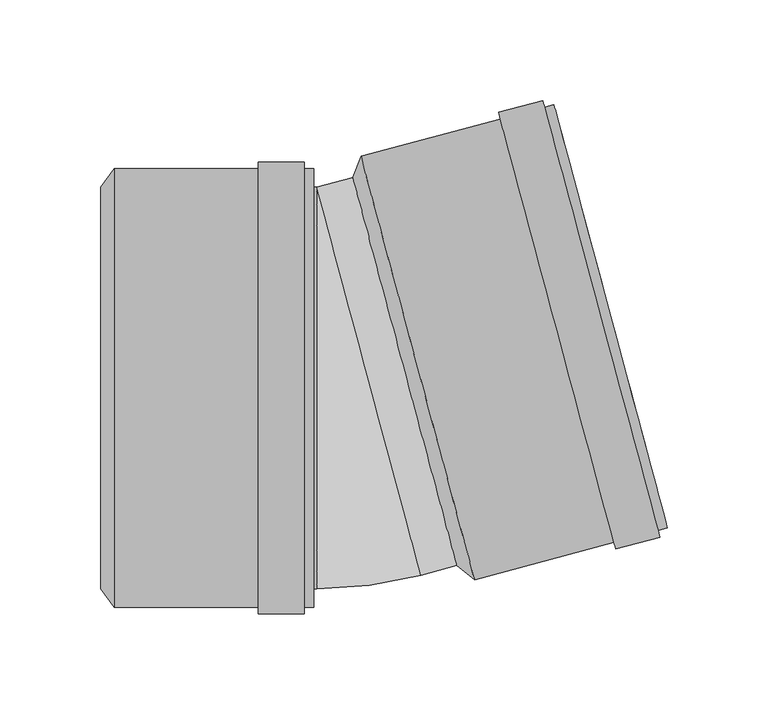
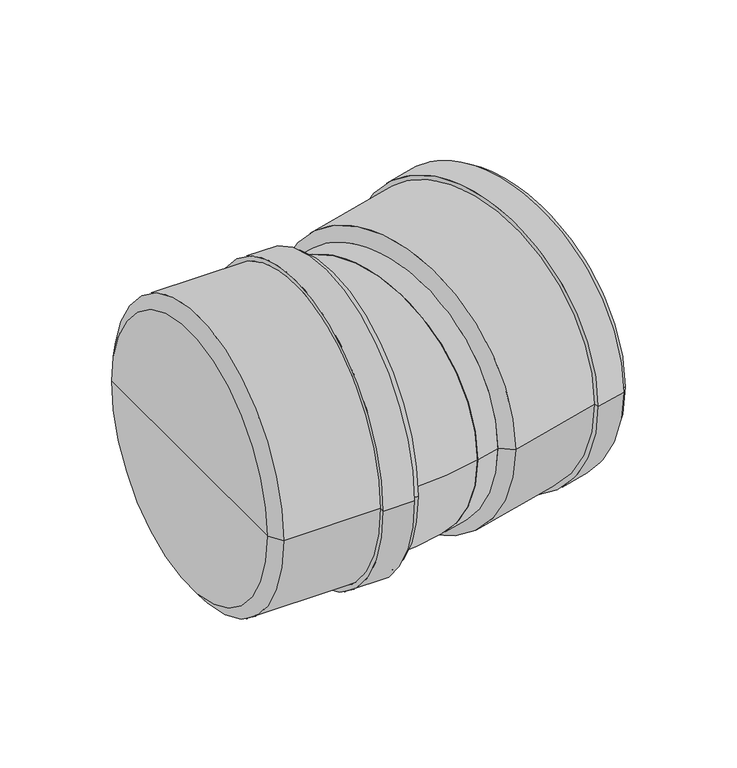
"""IFC4 building model written with IfcOpenShell, lengths in millimetres: pipe fitting geometry, pf_KGB : pf_KGB."""

import ifcopenshell
import ifcopenshell.guid

model = None  # the IFC model being written
_history = None  # IfcOwnerHistory: only IFC2X3 demands one
_inside = {}  # id of a spatial element -> (the spatial element, [elements in it])
_under = {}  # id of a project, library or spatial element -> (it, [spatial elements below it])
_declared = {}  # id of a project -> (the project, [libraries it declares])
_typed = {}  # id of a type object -> (the type object, [elements of that type])
_made_of = {}  # id of a material, layer set ... -> (it, [elements and type objects made of it])


def new_model(schema):
    """Start an empty IFC model of exactly this schema.

    Asked for "IFC4X3", IfcOpenShell would pick the latest addendum, in which some entities
    have other attributes; the version numbers below select the first issue.
    IFC2X3 requires an IfcOwnerHistory on every rooted entity: one is made here for all.
    """
    global model, _history
    if schema == "IFC4X3":
        model = ifcopenshell.file(schema_version=(4, 3, 0, 0))
    else:
        model = ifcopenshell.file(schema=schema)
    _inside.clear()
    _under.clear()
    _declared.clear()
    _typed.clear()
    _made_of.clear()
    _history = None
    if model.schema == "IFC2X3":
        org = make("IfcOrganization", Name="unknown")
        user = make(
            "IfcPersonAndOrganization",
            ThePerson=make("IfcPerson", FamilyName="unknown"),
            TheOrganization=org,
        )
        app = make(
            "IfcApplication",
            ApplicationDeveloper=org,
            Version="unknown",
            ApplicationFullName="unknown",
            ApplicationIdentifier="unknown",
        )
        _history = make(
            "IfcOwnerHistory",
            OwningUser=user,
            OwningApplication=app,
            ChangeAction="ADDED",
            CreationDate=0,
        )
    return model


def make(cls, **values):
    """One entity of the class cls with the attributes given. An attribute that is None is left unset."""
    return model.create_entity(
        cls, **{name: value for name, value in values.items() if value is not None}
    )


def rooted(cls, **values):
    """An entity with a GlobalId (a new one), such as an element, a storey or a relation."""
    return make(cls, GlobalId=ifcopenshell.guid.new(), OwnerHistory=_history, **values)


def si_unit(unit_type, name, prefix=None):
    """IfcSIUnit, for example si_unit("LENGTHUNIT", "METRE", prefix="MILLI")."""
    return make("IfcSIUnit", UnitType=unit_type, Prefix=prefix, Name=name)


def assignment(units):
    """IfcUnitAssignment: the units of a project."""
    return None if units is None else make("IfcUnitAssignment", Units=units)


def point(xyz):
    """IfcCartesianPoint."""
    return None if xyz is None else make("IfcCartesianPoint", Coordinates=xyz)


def direction(xyz):
    """IfcDirection."""
    return None if xyz is None else make("IfcDirection", DirectionRatios=xyz)


def frame(location, z_axis=None, x_axis=None):
    """IfcAxis2Placement3D, a coordinate frame: its origin and axes. An axis left out is left unset."""
    return make(
        "IfcAxis2Placement3D",
        Location=point(location),
        Axis=direction(z_axis),
        RefDirection=direction(x_axis),
    )


def frame_2d(location, x_axis=None):
    """IfcAxis2Placement2D, a coordinate frame in the plane: its origin and x axis."""
    return make(
        "IfcAxis2Placement2D", Location=point(location), RefDirection=direction(x_axis)
    )


def origin():
    """The frame at (0, 0, 0) with its axes left unset."""
    return frame((0.0, 0.0, 0.0))


def origin_2d():
    """The frame at (0, 0) in the plane with its x axis left unset."""
    return frame_2d((0.0, 0.0))


def place(relative_to, where):
    """IfcLocalPlacement: puts the frame where relative to a parent placement (None: the world)."""
    return make(
        "IfcLocalPlacement", PlacementRelTo=relative_to, RelativePlacement=where
    )


def context(
    kind, dimensions, precision=None, world=None, true_north=None, identifier=None
):
    """IfcGeometricRepresentationContext, for example the 3D "Model" context."""
    return make(
        "IfcGeometricRepresentationContext",
        ContextIdentifier=identifier,
        ContextType=kind,
        CoordinateSpaceDimension=dimensions,
        Precision=precision,
        WorldCoordinateSystem=world,
        TrueNorth=true_north,
    )


def project(units=None, contexts=None):
    """IfcProject with its units and contexts."""
    return rooted(
        "IfcProject",
        Name="project",
        RepresentationContexts=contexts,
        UnitsInContext=assignment(units),
    )


def spatial(cls, under=None, at=None, **own):
    """A site, building, storey or space (cls), placed at a placement, below another one or the project."""
    s = rooted(cls, ObjectPlacement=at, **own)
    if under is not None:
        _under.setdefault(under.id(), (under, []))[1].append(s)
    return s


def polyline(points):
    """IfcPolyline through the points."""
    return make("IfcPolyline", Points=[point(p) for p in points])


def circle_curve(where, radius):
    """IfcCircle in the frame where."""
    return make("IfcCircle", Position=where, Radius=radius)


def ellipse_curve(where, semi_axis1, semi_axis2):
    """IfcEllipse in the frame where."""
    return make(
        "IfcEllipse", Position=where, SemiAxis1=semi_axis1, SemiAxis2=semi_axis2
    )


def trimmed(basis, trim1, trim2, sense, master):
    """IfcTrimmedCurve: the piece of a basis curve between two trims."""
    return make(
        "IfcTrimmedCurve",
        BasisCurve=basis,
        Trim1=trim1,
        Trim2=trim2,
        SenseAgreement=sense,
        MasterRepresentation=master,
    )


def segment(curve, same_sense, transition):
    """IfcCompositeCurveSegment."""
    return make(
        "IfcCompositeCurveSegment",
        Transition=transition,
        SameSense=same_sense,
        ParentCurve=curve,
    )


def composite_curve(segments, self_intersect=None):
    """IfcCompositeCurve: segments joined end to end."""
    return make("IfcCompositeCurve", Segments=segments, SelfIntersect=self_intersect)


def outline(outer, holes=None, kind="AREA"):
    """IfcArbitraryClosedProfileDef: a profile drawn as a closed curve; with holes, ...WithVoids."""
    if holes is None:
        return make("IfcArbitraryClosedProfileDef", ProfileType=kind, OuterCurve=outer)
    return make(
        "IfcArbitraryProfileDefWithVoids",
        ProfileType=kind,
        OuterCurve=outer,
        InnerCurves=holes,
    )


def extrude(swept, where, along, depth):
    """IfcExtrudedAreaSolid: the profile swept, set in the frame where, extruded along a direction by depth."""
    return make(
        "IfcExtrudedAreaSolid",
        SweptArea=swept,
        Position=where,
        ExtrudedDirection=direction(along),
        Depth=depth,
    )


def shape(context_of_items, identifier, shape_type, items):
    """IfcShapeRepresentation: the items that make up one representation, for example the "Body"."""
    return make(
        "IfcShapeRepresentation",
        ContextOfItems=context_of_items,
        RepresentationIdentifier=identifier,
        RepresentationType=shape_type,
        Items=items,
    )


def source(mapping_origin, context_of_items, identifier, shape_type, items):
    """IfcRepresentationMap: a shape defined once, which mapped items show again and again."""
    return make(
        "IfcRepresentationMap",
        MappingOrigin=mapping_origin,
        MappedRepresentation=shape(context_of_items, identifier, shape_type, items),
    )


def transform(
    local_origin,
    x_axis=None,
    y_axis=None,
    z_axis=None,
    scale=None,
    scale2=None,
    scale3=None,
    uniform=True,
):
    """IfcCartesianTransformationOperator3D, or its non-uniform kind. x_axis, y_axis, z_axis: its Axis1, 2, 3."""
    if uniform:
        return make(
            "IfcCartesianTransformationOperator3D",
            Axis1=direction(x_axis),
            Axis2=direction(y_axis),
            LocalOrigin=point(local_origin),
            Scale=scale,
            Axis3=direction(z_axis),
        )
    return make(
        "IfcCartesianTransformationOperator3DnonUniform",
        Axis1=direction(x_axis),
        Axis2=direction(y_axis),
        LocalOrigin=point(local_origin),
        Scale=scale,
        Axis3=direction(z_axis),
        Scale2=scale2,
        Scale3=scale3,
    )


def mapped(mapping_source, mapping_target):
    """IfcMappedItem: shows the shape of a source again, moved by a transform."""
    return make(
        "IfcMappedItem", MappingSource=mapping_source, MappingTarget=mapping_target
    )


def made_of(thing, what):
    """Note that an element or type object is made of a material, layer set ...; save() writes the relation."""
    if what is not None:
        _made_of.setdefault(what.id(), (what, []))[1].append(thing)
    return thing


def element(
    cls,
    number,
    at=None,
    inside=None,
    cuts=None,
    type_object=None,
    material=None,
    context=None,
    identifier="Body",
    shape_type=None,
    held_by="IfcProductDefinitionShape",
    body=None,
    shapes=None,
    **own,
):
    """One element of the class cls, such as IfcWall. Its Tag is "e" and its number.

    at: its placement. inside: the storey or other place that contains it. cuts: it is an
    opening in that element (IfcRelVoidsElement). A single representation is given by context,
    identifier, shape_type and body (its items); several are given by shapes. held_by: the class
    of the entity that holds the representations. save() writes the other relations.
    """
    e = rooted(cls, Tag="e%d" % number, ObjectPlacement=at, **own)
    if body is not None:
        shapes = [shape(context, identifier, shape_type, body)]
    if shapes is not None:
        e.Representation = make(held_by, Representations=shapes)
    if inside is not None:
        _inside.setdefault(inside.id(), (inside, []))[1].append(e)
    if cuts is not None:
        rooted(
            "IfcRelVoidsElement", RelatingBuildingElement=cuts, RelatedOpeningElement=e
        )
    if type_object is not None:
        _typed.setdefault(type_object.id(), (type_object, []))[1].append(e)
    return made_of(e, material)


def aggregate(whole, parts):
    """IfcRelAggregates: a whole, such as a stair, and the parts it consists of."""
    return rooted("IfcRelAggregates", RelatingObject=whole, RelatedObjects=parts)


def save(model, path):
    """Write the relations noted so far, then the file.

    IfcRelAggregates (storeys below a building ...), IfcRelContainedInSpatialStructure (elements
    in a storey), IfcRelDefinesByType, IfcRelAssociatesMaterial and IfcRelDeclares: one each for
    every whole, place, type object, material and project.
    """
    for whole, parts in _under.values():
        aggregate(whole, parts)
    for where, things in _inside.values():
        rooted(
            "IfcRelContainedInSpatialStructure",
            RelatedElements=things,
            RelatingStructure=where,
        )
    for kind, things in _typed.values():
        rooted("IfcRelDefinesByType", RelatedObjects=things, RelatingType=kind)
    for what, things in _made_of.values():
        rooted("IfcRelAssociatesMaterial", RelatedObjects=things, RelatingMaterial=what)
    for by, libraries in _declared.values():
        rooted("IfcRelDeclares", RelatingContext=by, RelatedDefinitions=libraries)
    model.write(path)


def plane_surface(at):
    """IfcPlane: the flat surface through the origin of the frame at, square to its z axis."""
    return make("IfcPlane", Position=at)


def cylinder_surface(at, radius):
    """IfcCylindricalSurface: all points at the distance radius from the z axis of the frame at."""
    return make("IfcCylindricalSurface", Position=at, Radius=radius)


def revolved_surface(curve, axis_point, axis_direction):
    """IfcSurfaceOfRevolution: the curve turned about the line through axis_point along axis_direction."""
    return make(
        "IfcSurfaceOfRevolution",
        SweptCurve=make("IfcArbitraryOpenProfileDef", ProfileType="CURVE", Curve=curve),
        AxisPosition=make("IfcAxis1Placement", Location=point(axis_point), Axis=direction(axis_direction)),
    )


def advanced_brep(points, edges, surfaces, faces):
    """IfcAdvancedBrep: a solid bounded by faces that lie on surfaces and meet in shared edges.

    An edge is (start, end): straight between two places in points (the first is 0);
    or (start, end, curve); or (start, end, curve, False) where it runs against its curve.
    A face is (place in surfaces, loops), or (place, loops, False) where it looks against
    its surface's normal. A loop lists edges by number (the first is 1), with a minus sign
    where the edge is run from its end to its start. The first loop is the outer one.
    """
    corners = [point(p) for p in points]
    vertices = [make("IfcVertexPoint", VertexGeometry=c) for c in corners]
    made = []
    for start, end, *more in edges:
        made.append(
            make(
                "IfcEdgeCurve",
                EdgeStart=vertices[start],
                EdgeEnd=vertices[end],
                EdgeGeometry=more[0] if more else make("IfcPolyline", Points=[corners[start], corners[end]]),
                SameSense=more[1] if len(more) > 1 else True,
            )
        )
    hull = []
    for where, loops, *sense in faces:
        bounds = []
        for j, loop in enumerate(loops):
            ring = [make("IfcOrientedEdge", EdgeElement=made[abs(k) - 1], Orientation=k > 0) for k in loop]
            bounds.append(
                make(
                    "IfcFaceOuterBound" if j == 0 else "IfcFaceBound",
                    Bound=make("IfcEdgeLoop", EdgeList=ring),
                    Orientation=True,
                )
            )
        hull.append(make("IfcAdvancedFace", Bounds=bounds, FaceSurface=surfaces[where], SameSense=sense[0] if sense else True))
    return make("IfcAdvancedBrep", Outer=make("IfcClosedShell", CfsFaces=hull))


def pipe_fitting_255ecb20(model_context):
    return source(origin(), model_context, "Body", "SolidModel", [
        advanced_brep(
        [(56.5017532, -88.3880189, 0.0), (4.7379442, 104.7971464, 0.0), (8.8543939, 115.321159, 0.0), (65.3287096, -95.4438563, 0.0), (30.6198487, 8.2045637, 0.0), (161.2451441, -69.7431251, 0.0), (104.7708285, 141.0218902, 0.0), (107.1260818, 132.2319651, 0.0), (158.8898908, -60.9532001, 0.0), (100.1343845, 139.7795587, 0.0), (156.6087001, -70.9854566, 0.0), (99.2543997, 143.0637066, 0.0), (157.4886849, -74.2696044, 0.0), (77.2312909, 137.1626323, 0.0), (135.465576, -80.1706786, 0.0), (78.1112757, 133.8784845, 0.0), (134.5855913, -76.8865308, 0.0), (62.9734562, -86.6539313, 0.0), (11.2096472, 106.531234, 0.0), (37.0915517, 9.9386513, 0.0)],
        [
            (0, 1, circle_curve(frame((30.6198487, 8.2045637, 0.0), z_axis=(0.9659258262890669, 0.25881904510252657, 0.0), x_axis=(-0.2588190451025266, 0.9659258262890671, 0.0)), 100.0)),
            (1, 2),
            (2, 3, circle_curve(frame((37.0915517, 9.9386513, 0.0), z_axis=(-0.9659258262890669, -0.25881904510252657, 0.0), x_axis=(-0.2588190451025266, 0.9659258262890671, 0.0)), 109.1)),
            (3, 0),
            (1, 0, circle_curve(frame((30.6198487, 8.2045637, 0.0), z_axis=(0.9659258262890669, 0.25881904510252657, 0.0), x_axis=(-0.2588190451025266, 0.9659258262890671, 0.0)), 100.0)),
            (3, 2, circle_curve(frame((37.0915517, 9.9386513, 0.0), z_axis=(-0.9659258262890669, -0.25881904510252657, 0.0), x_axis=(-0.2588190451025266, 0.9659258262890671, 0.0)), 109.1)),
            (4, 1),
            (0, 4),
            (5, 6, circle_curve(frame((133.0079863, 35.6393825, 0.0), z_axis=(0.9659258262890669, 0.25881904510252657, 0.0), x_axis=(-0.2588190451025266, 0.9659258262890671, 0.0)), 109.1)),
            (6, 7),
            (7, 8, circle_curve(frame((133.0079863, 35.6393825, 0.0), z_axis=(-0.9659258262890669, -0.25881904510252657, 0.0), x_axis=(-0.2588190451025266, 0.9659258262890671, 0.0)), 100.0)),
            (8, 5),
            (9, 10, circle_curve(frame((128.3715423, 34.3970511, 0.0), z_axis=(0.9659258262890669, 0.25881904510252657, 0.0), x_axis=(-0.2588190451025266, 0.9659258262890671, 0.0)), 109.1)),
            (10, 5),
            (5, 6, circle_curve(frame((133.0079863, 35.6393825, 0.0), z_axis=(-0.9659258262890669, -0.25881904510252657, 0.0), x_axis=(-0.2588190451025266, 0.9659258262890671, 0.0)), 109.1)),
            (6, 9),
            (11, 12, circle_curve(frame((128.3715423, 34.3970511, 0.0), z_axis=(0.9659258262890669, 0.25881904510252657, 0.0), x_axis=(-0.2588190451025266, 0.9659258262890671, 0.0)), 112.5)),
            (12, 10),
            (9, 11),
            (13, 14, circle_curve(frame((106.3484335, 28.4959769, 0.0), z_axis=(0.9659258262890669, 0.25881904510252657, 0.0), x_axis=(-0.2588190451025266, 0.9659258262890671, 0.0)), 112.5)),
            (14, 12),
            (11, 13),
            (15, 16, circle_curve(frame((106.3484335, 28.4959769, 0.0), z_axis=(0.9659258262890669, 0.25881904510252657, 0.0), x_axis=(-0.2588190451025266, 0.9659258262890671, 0.0)), 109.1)),
            (16, 14),
            (13, 15),
            (8, 7, circle_curve(frame((133.0079863, 35.6393825, 0.0), z_axis=(-0.9659258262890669, -0.25881904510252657, 0.0), x_axis=(-0.2588190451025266, 0.9659258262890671, 0.0)), 100.0)),
            (10, 9, circle_curve(frame((128.3715423, 34.3970511, 0.0), z_axis=(0.9659258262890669, 0.25881904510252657, 0.0), x_axis=(-0.2588190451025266, 0.9659258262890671, 0.0)), 109.1)),
            (12, 11, circle_curve(frame((128.3715423, 34.3970511, 0.0), z_axis=(0.9659258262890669, 0.25881904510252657, 0.0), x_axis=(-0.2588190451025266, 0.9659258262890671, 0.0)), 112.5)),
            (14, 13, circle_curve(frame((106.3484335, 28.4959769, 0.0), z_axis=(0.9659258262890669, 0.25881904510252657, 0.0), x_axis=(-0.2588190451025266, 0.9659258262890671, 0.0)), 112.5)),
            (16, 15, circle_curve(frame((106.3484335, 28.4959769, 0.0), z_axis=(0.9659258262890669, 0.25881904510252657, 0.0), x_axis=(-0.2588190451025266, 0.9659258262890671, 0.0)), 109.1)),
            (2, 15),
            (16, 3),
            (17, 18, circle_curve(frame((37.0915517, 9.9386513, 0.0), z_axis=(0.9659258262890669, 0.25881904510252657, 0.0), x_axis=(-0.2588190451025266, 0.9659258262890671, 0.0)), 100.0)),
            (18, 19),
            (19, 17),
            (18, 17, circle_curve(frame((37.0915517, 9.9386513, 0.0), z_axis=(0.9659258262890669, 0.25881904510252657, 0.0), x_axis=(-0.2588190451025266, 0.9659258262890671, 0.0)), 100.0)),
            (7, 18),
            (17, 8),
        ],
        [
            revolved_surface(polyline([(8.8543939, 115.321159, 0.0), (4.7379442, 104.7971464, 0.0)]), (30.6198487, 8.2045637, 0.0), (-0.9659258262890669, -0.25881904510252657, 0.0)),
            plane_surface(frame((30.6198487, 8.2045637, 0.0), z_axis=(-0.9659258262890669, -0.25881904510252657, 0.0), x_axis=(-0.25881904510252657, 0.9659258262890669, 0.0))),
            plane_surface(frame((133.0079863, 35.6393825, 0.0), z_axis=(0.9659258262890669, 0.25881904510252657, 0.0), x_axis=(-0.25881904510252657, 0.9659258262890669, 0.0))),
            cylinder_surface(frame((30.6198487, 8.2045637, 0.0), z_axis=(-0.9659258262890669, -0.25881904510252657, 0.0), x_axis=(-0.2588190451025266, 0.9659258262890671, 0.0)), 109.1),
            plane_surface(frame((128.3715423, 34.3970511, 0.0), z_axis=(0.9659258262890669, 0.25881904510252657, 0.0), x_axis=(-0.25881904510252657, 0.9659258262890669, 0.0))),
            cylinder_surface(frame((30.6198487, 8.2045637, 0.0), z_axis=(-0.9659258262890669, -0.25881904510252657, 0.0), x_axis=(-0.2588190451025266, 0.9659258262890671, 0.0)), 112.5),
            plane_surface(frame((106.3484335, 28.4959769, 0.0), z_axis=(-0.9659258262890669, -0.25881904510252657, 0.0), x_axis=(-0.25881904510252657, 0.9659258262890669, 0.0))),
            plane_surface(frame((37.0915517, 9.9386513, 0.0), z_axis=(0.9659258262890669, 0.25881904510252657, 0.0), x_axis=(-0.25881904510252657, 0.9659258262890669, 0.0))),
            revolved_surface(polyline([(11.209647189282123, 106.53123392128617, 0.0), (107.12608179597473, 132.23196511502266, 0.0)]), (30.6198487, 8.2045637, 0.0), (-0.9659258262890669, -0.25881904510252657, 0.0)),
        ],
        [
            (0, [[1, 2, 3, 4]]),
            (0, [[5, -4, 6, -2]]),
            (1, [[7, -1, 8]]),
            (1, [[-8, -5, -7]]),
            (2, [[9, 10, 11, 12]]),
            (3, [[13, 14, 15, 16]]),
            (4, [[17, 18, -13, 19]]),
            (5, [[20, 21, -17, 22]]),
            (6, [[23, 24, -20, 25]]),
            (2, [[-15, -12, 26, -10]]),
            (3, [[27, -16, -9, -14]]),
            (4, [[28, -19, -27, -18]]),
            (5, [[29, -22, -28, -21]]),
            (6, [[30, -25, -29, -24]]),
            (3, [[-3, 31, -30, 32]]),
            (3, [[-6, -32, -23, -31]]),
            (7, [[33, 34, 35]]),
            (7, [[36, -35, -34]]),
            (8, [[-11, 37, -33, 38]]),
            (8, [[-26, -38, -36, -37]]),
        ],
    ),
        advanced_brep(
        [(-120.7, -100.0, 0.0), (-120.7, 100.0, 0.0), (-114.0, 109.1, 0.0), (-114.0, -109.1, 0.0), (-120.7, 0.0, 0.0), (-14.7, -109.1, 0.0), (-14.7, 109.1, 0.0), (-14.7, 100.0, 0.0), (-14.7, -100.0, 0.0), (-19.5, 109.1, 0.0), (-19.5, -109.1, 0.0), (-19.5, 112.5, 0.0), (-19.5, -112.5, 0.0), (-42.3, 112.5, 0.0), (-42.3, -112.5, 0.0), (-42.3, 109.1, 0.0), (-42.3, -109.1, 0.0), (-114.0, -100.0, 0.0), (-114.0, 100.0, 0.0), (-114.0, 0.0, 0.0)],
        [
            (0, 1, circle_curve(frame((-120.7, 0.0, 0.0), z_axis=(1.0, 0.0, 0.0), x_axis=(0.0, 1.0, 0.0)), 100.0)),
            (1, 2),
            (2, 3, circle_curve(frame((-114.0, 0.0, 0.0), z_axis=(-1.0, 0.0, 0.0), x_axis=(0.0, 1.0, 0.0)), 109.1)),
            (3, 0),
            (1, 0, circle_curve(frame((-120.7, 0.0, 0.0), z_axis=(1.0, 0.0, 0.0), x_axis=(0.0, 1.0, 0.0)), 100.0)),
            (3, 2, circle_curve(frame((-114.0, 0.0, 0.0), z_axis=(-1.0, 0.0, 0.0), x_axis=(0.0, 1.0, 0.0)), 109.1)),
            (4, 1),
            (0, 4),
            (5, 6, circle_curve(frame((-14.7, 0.0, 0.0), z_axis=(1.0, 0.0, 0.0), x_axis=(0.0, 1.0, 0.0)), 109.1)),
            (6, 7),
            (7, 8, circle_curve(frame((-14.7, 0.0, 0.0), z_axis=(-1.0, 0.0, 0.0), x_axis=(0.0, 1.0, 0.0)), 100.0)),
            (8, 5),
            (9, 10, circle_curve(frame((-19.5, 0.0, 0.0), z_axis=(1.0, 0.0, 0.0), x_axis=(0.0, 1.0, 0.0)), 109.1)),
            (10, 5),
            (5, 6, circle_curve(frame((-14.7, 0.0, 0.0), z_axis=(-1.0, 0.0, 0.0), x_axis=(0.0, 1.0, 0.0)), 109.1)),
            (6, 9),
            (11, 12, circle_curve(frame((-19.5, 0.0, 0.0), z_axis=(1.0, 0.0, 0.0), x_axis=(0.0, 1.0, 0.0)), 112.5)),
            (12, 10),
            (9, 11),
            (13, 14, circle_curve(frame((-42.3, 0.0, 0.0), z_axis=(1.0, 0.0, 0.0), x_axis=(0.0, 1.0, 0.0)), 112.5)),
            (14, 12),
            (11, 13),
            (15, 16, circle_curve(frame((-42.3, 0.0, 0.0), z_axis=(1.0, 0.0, 0.0), x_axis=(0.0, 1.0, 0.0)), 109.1)),
            (16, 14),
            (13, 15),
            (8, 7, circle_curve(frame((-14.7, 0.0, 0.0), z_axis=(-1.0, 0.0, 0.0), x_axis=(0.0, 1.0, 0.0)), 100.0)),
            (10, 9, circle_curve(frame((-19.5, 0.0, 0.0), z_axis=(1.0, 0.0, 0.0), x_axis=(0.0, 1.0, 0.0)), 109.1)),
            (12, 11, circle_curve(frame((-19.5, 0.0, 0.0), z_axis=(1.0, 0.0, 0.0), x_axis=(0.0, 1.0, 0.0)), 112.5)),
            (14, 13, circle_curve(frame((-42.3, 0.0, 0.0), z_axis=(1.0, 0.0, 0.0), x_axis=(0.0, 1.0, 0.0)), 112.5)),
            (16, 15, circle_curve(frame((-42.3, 0.0, 0.0), z_axis=(1.0, 0.0, 0.0), x_axis=(0.0, 1.0, 0.0)), 109.1)),
            (2, 15),
            (16, 3),
            (17, 18, circle_curve(frame((-114.0, 0.0, 0.0), z_axis=(1.0, 0.0, 0.0), x_axis=(0.0, 1.0, 0.0)), 100.0)),
            (18, 19),
            (19, 17),
            (18, 17, circle_curve(frame((-114.0, 0.0, 0.0), z_axis=(1.0, 0.0, 0.0), x_axis=(0.0, 1.0, 0.0)), 100.0)),
            (7, 18),
            (17, 8),
        ],
        [
            revolved_surface(polyline([(-114.0, 109.1, 0.0), (-120.7, 100.0, 0.0)]), (-120.7, 0.0, 0.0), (-1.0, 0.0, 0.0)),
            plane_surface(frame((-120.7, 0.0, 0.0), z_axis=(-1.0, 0.0, 0.0), x_axis=(0.0, 1.0, 0.0))),
            plane_surface(frame((-14.7, 0.0, 0.0), z_axis=(1.0, 0.0, 0.0), x_axis=(0.0, 1.0, 0.0))),
            cylinder_surface(frame((-120.7, 0.0, 0.0), z_axis=(-1.0, 0.0, 0.0), x_axis=(0.0, 1.0, 0.0)), 109.1),
            plane_surface(frame((-19.5, 0.0, 0.0), z_axis=(1.0, 0.0, 0.0), x_axis=(0.0, 1.0, 0.0))),
            cylinder_surface(frame((-120.7, 0.0, 0.0), z_axis=(-1.0, 0.0, 0.0), x_axis=(0.0, 1.0, 0.0)), 112.5),
            plane_surface(frame((-42.3, 0.0, 0.0), z_axis=(-1.0, 0.0, 0.0), x_axis=(0.0, 1.0, 0.0))),
            plane_surface(frame((-114.0, 0.0, 0.0), z_axis=(1.0, 0.0, 0.0), x_axis=(0.0, 1.0, 0.0))),
            revolved_surface(polyline([(-114.0, 100.0, 0.0), (-14.700000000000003, 100.0, 0.0)]), (-120.7, 0.0, 0.0), (-1.0, 0.0, 0.0)),
        ],
        [
            (0, [[1, 2, 3, 4]]),
            (0, [[5, -4, 6, -2]]),
            (1, [[7, -1, 8]]),
            (1, [[-8, -5, -7]]),
            (2, [[9, 10, 11, 12]]),
            (3, [[13, 14, 15, 16]]),
            (4, [[17, 18, -13, 19]]),
            (5, [[20, 21, -17, 22]]),
            (6, [[23, 24, -20, 25]]),
            (2, [[-15, -12, 26, -10]]),
            (3, [[27, -16, -9, -14]]),
            (4, [[28, -19, -27, -18]]),
            (5, [[29, -22, -28, -21]]),
            (6, [[30, -25, -29, -24]]),
            (3, [[-3, 31, -30, 32]]),
            (3, [[-6, -32, -23, -31]]),
            (7, [[33, 34, 35]]),
            (7, [[36, -35, -34]]),
            (8, [[-11, 37, -33, 38]]),
            (8, [[-26, -38, -36, -37]]),
        ],
    ),
        extrude(outline(composite_curve([segment(trimmed(circle_curve(origin_2d(), 100.0), [point((0.0, -100.0))], [point((0.0, 100.0000001))], False, "CARTESIAN"), True, "CONTINUOUS"), segment(trimmed(circle_curve(origin_2d(), 100.0), [point((0.0, 100.0000001))], [point((0.0, -100.0))], False, "CARTESIAN"), True, "CONTINUOUS")], self_intersect=False)), frame((12.7166548, 3.4074174, 0.0), z_axis=(0.9659258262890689, 0.25881904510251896, 0.0), x_axis=(0.0, 0.0, 1.0)), (0.0, 0.0, 1.0), 18.5347502),
        extrude(outline(composite_curve([segment(trimmed(circle_curve(origin_2d(), 100.0), [point((-100.0, 0.0))], [point((100.0, 0.0))], False, "CARTESIAN"), True, "CONTINUOUS"), segment(trimmed(circle_curve(origin_2d(), 100.0), [point((100.0, 0.0))], [point((-100.0, 0.0))], False, "CARTESIAN"), True, "CONTINUOUS")], self_intersect=False)), frame((-114.0, 0.0, 0.0), z_axis=(1.0, 0.0, 0.0), x_axis=(0.0, 1.0, 0.0)), (0.0, 0.0, 1.0), 100.8347502),
        advanced_brep(
        [(-13.1652498, -100.0, 0.0), (-13.1652498, 100.0, 0.0), (38.5985593, -93.1851653, 0.0)],
        [
            (0, 1, circle_curve(frame((-13.1652498, 0.0, 0.0), z_axis=(-1.0, 0.0, 0.0), x_axis=(0.0, 1.0, 0.0)), 100.0)),
            (1, 0, circle_curve(frame((-13.1652498, 0.0, 0.0), z_axis=(-1.0, 0.0, 0.0), x_axis=(0.0, 1.0, 0.0)), 100.0)),
            (2, 1, circle_curve(frame((12.7166548, 3.4074174, 0.0), z_axis=(0.9659258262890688, 0.25881904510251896, 0.0), x_axis=(-0.25881904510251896, 0.9659258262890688, 0.0)), 100.0)),
            (1, 2, circle_curve(frame((12.7166548, 3.4074174, 0.0), z_axis=(0.9659258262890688, 0.25881904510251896, 0.0), x_axis=(-0.25881904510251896, 0.9659258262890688, 0.0)), 100.0)),
            (2, 0, circle_curve(frame((-13.1652498, 100.0, 0.0), z_axis=(0.0, 0.0, -1.0), x_axis=(0.0, -1.0, 0.0)), 200.0)),
        ],
        [
            plane_surface(frame((-13.1652498, 100.0, -14.8), z_axis=(-1.0, 0.0, 0.0), x_axis=(0.0, -1.0, 0.0))),
            plane_surface(frame((-13.1652498, 100.0, -14.8), z_axis=(0.9659258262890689, 0.258819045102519, 0.0), x_axis=(0.258819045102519, -0.9659258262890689, 0.0))),
            revolved_surface(trimmed(ellipse_curve(frame((-13.1652498, 0.0, 0.0), z_axis=(1.0, 0.0, 0.0), x_axis=(0.0, 1.0, 0.0)), 100.0, 100.0), [point((-13.1652498, -100.0, 0.0))], [point((-13.1652498, 100.0, 0.0))], True, "CARTESIAN"), (-13.1652498, 100.0, -14.8), (0.0, 0.0, -1.0)),
            revolved_surface(trimmed(ellipse_curve(frame((-13.1652498, 0.0, 0.0), z_axis=(1.0, 0.0, 0.0), x_axis=(0.0, 1.0, 0.0)), 100.0, 100.0), [point((-13.1652498, 100.0, 0.0))], [point((-13.1652498, -100.0, 0.0))], True, "CARTESIAN"), (-13.1652498, 100.0, -14.8), (0.0, 0.0, -1.0)),
        ],
        [
            (0, [[1, 2]]),
            (1, [[3, 4]]),
            (2, [[5, -2, -3]]),
            (3, [[-1, -5, -4]]),
        ],
    ),
    ])


if __name__ == "__main__":
    model = new_model("IFC4")
    model_context = context("Model", 3, world=origin())
    ifc_project = project(units=[si_unit("LENGTHUNIT", "METRE", prefix="MILLI")], contexts=[model_context])
    site = spatial("IfcSite", under=ifc_project)
    building = spatial("IfcBuilding", under=site)
    placement = place(None, origin())
    pipe_fitting_shape = pipe_fitting_255ecb20(model_context)
    element("IfcPipeFitting", 1, ObjectType="pf_KGB : pf_KGB", at=placement, inside=building, context=model_context, shape_type="MappedRepresentation", body=[
        mapped(pipe_fitting_shape, transform((0.0, 0.0, 0.0), x_axis=(1.0, 0.0, 0.0), y_axis=(0.0, 1.0, 0.0), z_axis=(0.0, 0.0, 1.0))),
    ])
    save(model, "model.ifc")
